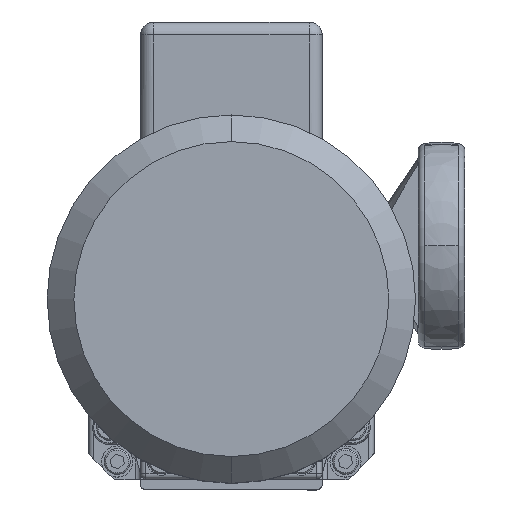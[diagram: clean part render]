
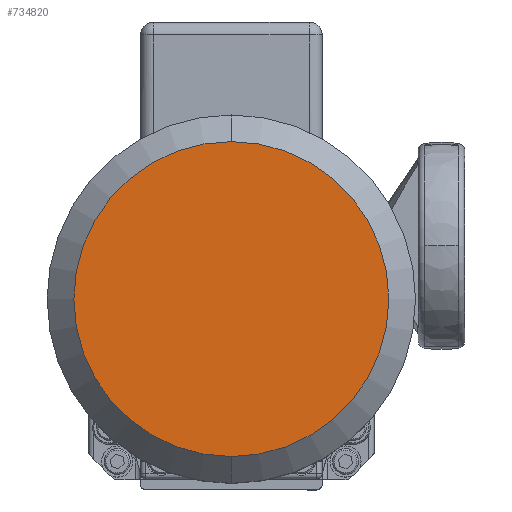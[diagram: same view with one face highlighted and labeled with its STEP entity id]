
A CAD part, top view. The second image highlights one B-rep face of the part: STEP entity #734820.
In plain terms, the highlighted planar face has unit normal (0, 0, 1) as drawn and (1, 0, 0) by its records, which use the part's own axes.
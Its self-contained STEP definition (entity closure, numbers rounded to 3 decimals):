
#729930=CARTESIAN_POINT('',(217.,-60.708,0.
));
#729940=VERTEX_POINT('',#729930);
#729970=CARTESIAN_POINT('',(217.,0.,
0.));
#729980=DIRECTION('',(1.,0.,0.));
#729990=DIRECTION('',(0.,1.,0.));
#730000=AXIS2_PLACEMENT_3D('',#729970,#729980,#729990);
#730010=CIRCLE('',#730000,60.708);
#730020=CARTESIAN_POINT('',(217.,60.708,0.))
;
#730030=VERTEX_POINT('',#730020);
#730040=EDGE_CURVE('',#729940,#730030,#730010,.T.);
#734720=CARTESIAN_POINT('',(217.,35.5,0.));
#734730=DIRECTION('',(1.,0.,0.));
#734740=DIRECTION('',(0.,0.,-1.));
#734750=AXIS2_PLACEMENT_3D('',#734720,#734730,#734740);
#734760=PLANE('',#734750);
#734770=ORIENTED_EDGE('',*,*,#730040,.T.);
#734780=EDGE_CURVE('',#730030,#729940,#730010,.T.);
#734790=ORIENTED_EDGE('',*,*,#734780,.T.);
#734800=EDGE_LOOP('',(#734790,#734770));
#734810=FACE_OUTER_BOUND('',#734800,.T.);
#734820=ADVANCED_FACE('',(#734810),#734760,.T.);
